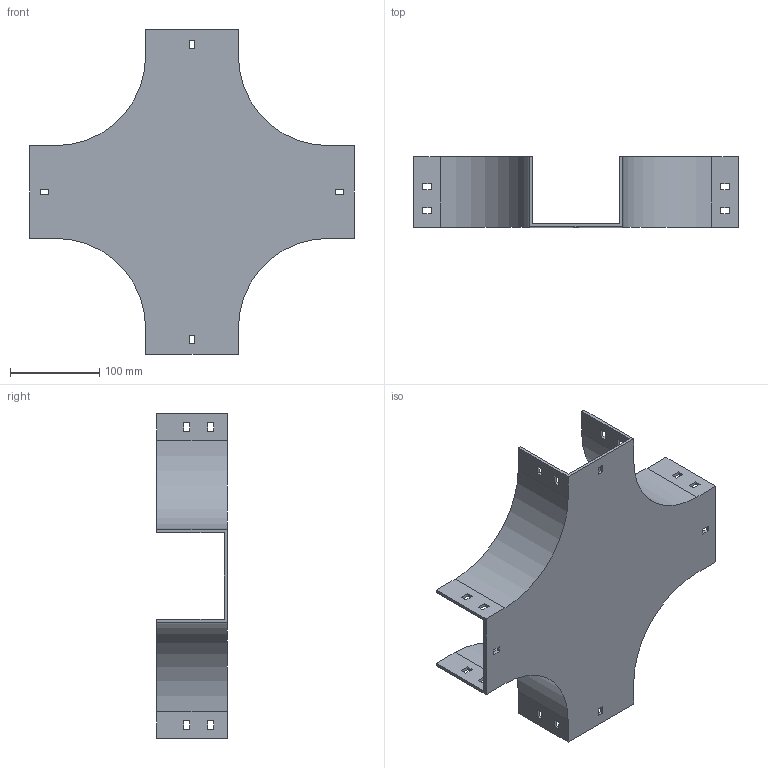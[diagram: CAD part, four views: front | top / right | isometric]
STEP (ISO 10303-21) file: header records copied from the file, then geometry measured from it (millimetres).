
FILE_DESCRIPTION (( 'STEP AP214' ), '1' );
FILE_NAME ('17F1C100.step', '2025-02-21T13:06:06', ( '' ), ( '' ), 'SwSTEP 2.0', 'SolidWorks 2023', '' );
FILE_SCHEMA (( 'AUTOMOTIVE_DESIGN' ));
Length unit declared in the file: millimetre
Products named in the file (1): 17F1C100
Bounding box: 364 x 79 x 364 mm (x, y, z)
Volume: 484800 mm3; surface area: 285975.7 mm2
Topology: 1 solids, 1 shells, 114 faces, 336 edges, 224 vertices
Faces by surface type: plane 106, cylinder 8
Entity records: 3839 total; most frequent: CARTESIAN_POINT 675, ORIENTED_EDGE 672, DIRECTION 582, EDGE_CURVE 336, LINE 320, VECTOR 320, VERTEX_POINT 224, EDGE_LOOP 154
